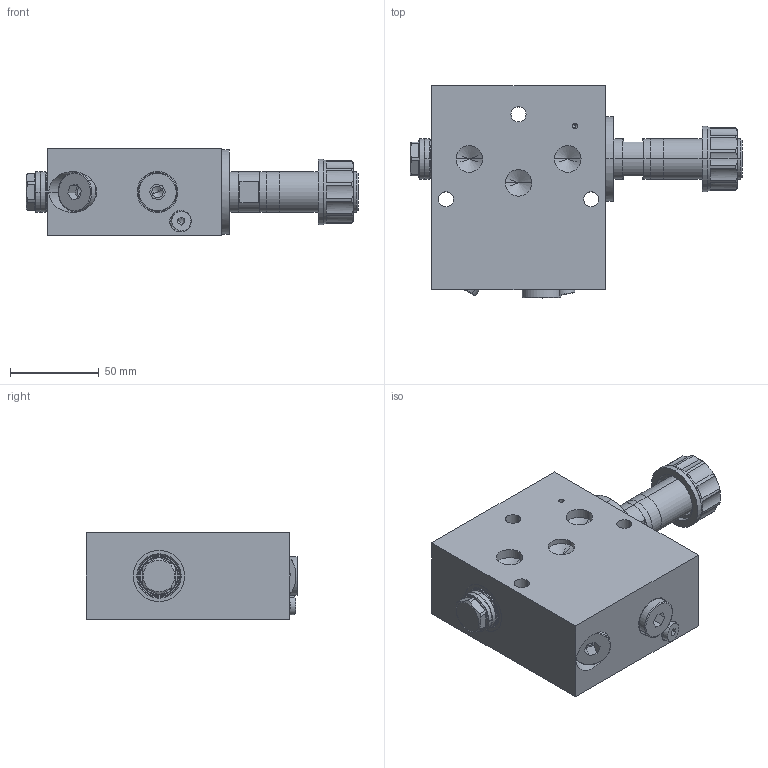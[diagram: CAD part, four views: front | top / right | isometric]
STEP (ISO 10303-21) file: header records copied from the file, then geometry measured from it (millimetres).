
FILE_DESCRIPTION (( 'STEP AP214' ), '1' );
FILE_NAME ('Control Section CMVA-MC06-B actuation at B.STEP', '2025-11-17T12:57:42', ( '' ), ( '' ), 'SwSTEP 2.0', 'SolidWorks 2024', '' );
FILE_SCHEMA (( 'AUTOMOTIVE_DESIGN' ));
Length unit declared in the file: millimetre
Products named in the file (1): Control Section CMVA-MC06-B actuation at B
Bounding box: 187.55 x 119.7 x 49 mm (x, y, z)
Volume: 538111 mm3; surface area: 93447.9 mm2
Topology: 23 solids, 23 shells, 1318 faces, 3177 edges, 1956 vertices
Faces by surface type: plane 629, cylinder 303, cone 225, bspline 93, torus 68
Entity records: 41671 total; most frequent: CARTESIAN_POINT 10849, DIRECTION 6460, ORIENTED_EDGE 6266, EDGE_CURVE 3133, AXIS2_PLACEMENT_3D 2351, VERTEX_POINT 1956, LINE 1758, VECTOR 1758
